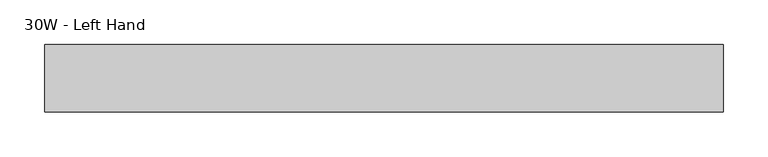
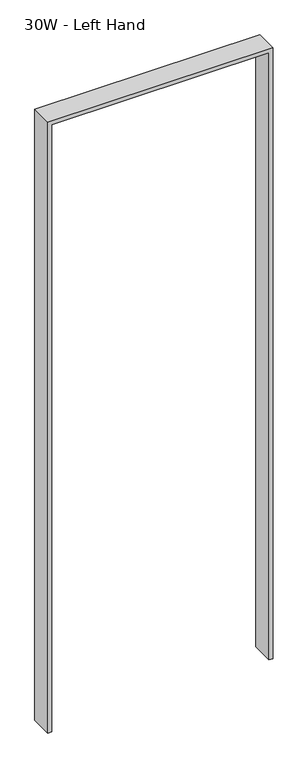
"""IFC4 building model written with IfcOpenShell, lengths in millimetres: furniture geometry, Steelcase - Montage - Door - Door Frame : 30W - Left Hand."""

from ifc_helpers import new_model, si_unit, frame, origin, place, context, project, spatial, polyline, outline, extrude, source, transform, mapped, element, save


def furniture_30w_left_hand_1f37da82(model_context):
    return source(origin(), model_context, "Body", "SweptSolid", [
        extrude(outline(polyline([(0.0, 12.7000004), (2171.7, 12.7000004), (2171.7, 749.2999996), (0.0, 749.2999996), (0.0, 762.0), (2184.3999516, 762.0), (2184.3999516, 0.0), (0.0, 0.0), (0.0, 12.7000004)])), frame((0.0, -38.1000015, 0.0), z_axis=(0.0, 1.0, 0.0), x_axis=(0.0, 0.0, 1.0)), (0.0, 0.0, 1.0), 76.200003),
    ])


if __name__ == "__main__":
    model = new_model("IFC4")
    model_context = context("Model", 3, world=origin())
    ifc_project = project(units=[si_unit("LENGTHUNIT", "METRE", prefix="MILLI")], contexts=[model_context])
    site = spatial("IfcSite", under=ifc_project)
    building = spatial("IfcBuilding", under=site)
    placement = place(None, origin())
    furniture_30w_left_hand_shape = furniture_30w_left_hand_1f37da82(model_context)
    element("IfcFurniture", 1, ObjectType="Steelcase - Montage - Door - Door Frame : 30W - Left Hand", at=placement, inside=building, context=model_context, shape_type="MappedRepresentation", body=[
        mapped(furniture_30w_left_hand_shape, transform((0.0, 0.0, 0.0), x_axis=(1.0, 0.0, 0.0), y_axis=(0.0, 1.0, 0.0), z_axis=(0.0, 0.0, 1.0))),
    ])
    save(model, "model.ifc")
